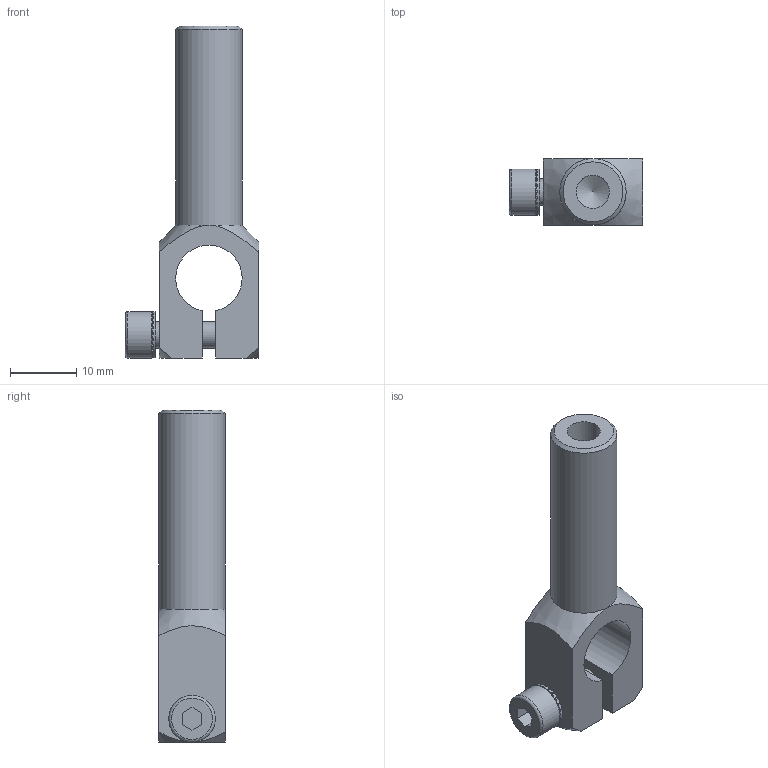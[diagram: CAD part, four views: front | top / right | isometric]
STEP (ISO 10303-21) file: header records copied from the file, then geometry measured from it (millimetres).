
FILE_DESCRIPTION(('STEP AP214'),'1');
FILE_NAME('CA.WKA.10.10.30.stp','2020-09-21T10:06:09',(' '),(' '),'Spatial InterOp 3D',' ',' ');
FILE_SCHEMA(('AUTOMOTIVE_DESIGN { 1 0 10303 214 1 1 1 1 }'));
Length unit declared in the file: millimetre
Products named in the file (4): CA.WKA.10.10.30; WKA.10.10.30; R.4.SCH; V.TCE4x14
Assembly tree (3 placements, depth 2):
  CA.WKA.10.10.30
    WKA.10.10.30
    R.4.SCH
    V.TCE4x14
Bounding box: 20.1 x 10 x 50 mm (x, y, z)
Volume: 4046.5 mm3; surface area: 3291.2 mm2
Topology: 3 solids, 3 shells, 231 faces, 663 edges, 438 vertices
Faces by surface type: plane 211, cone 9, cylinder 9, torus 2
Full cylindrical faces by diameter (mm): 3.3 x1, 4 x1, 4.2 x1, 4.3 x1, 5 x1, 7 x2, 10 x1
Entity records: 9655 total; most frequent: CARTESIAN_POINT 1452, DIRECTION 1318, ORIENTED_EDGE 1294, EDGE_CURVE 647, AXIS2_PLACEMENT_3D 450, VERTEX_POINT 436, LINE 418, VECTOR 418
